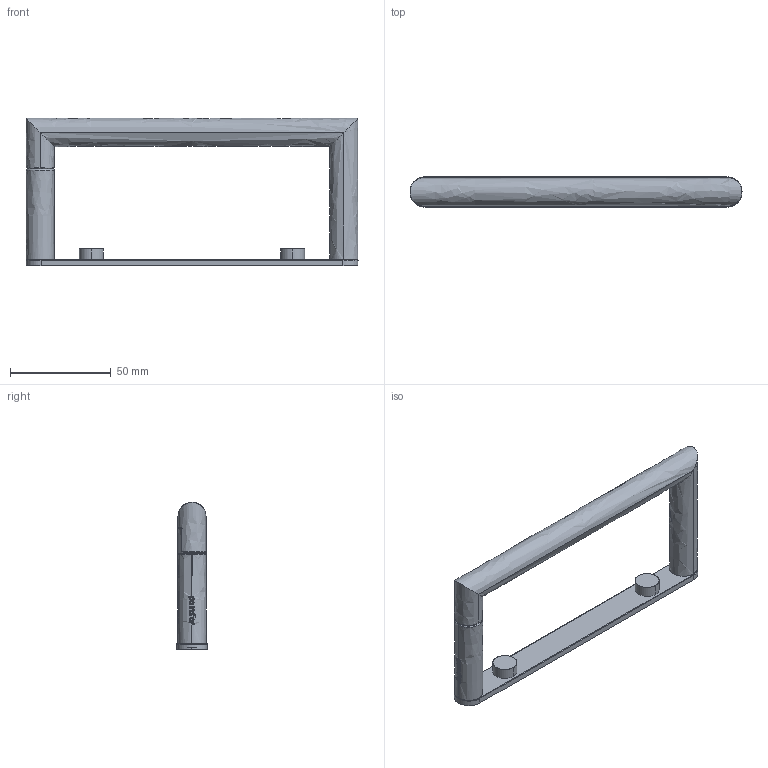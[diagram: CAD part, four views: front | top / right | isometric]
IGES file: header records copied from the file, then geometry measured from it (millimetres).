
Start section: SolidWorks IGES file using analytic representation for surfaces
Global section: file name: G:\Projects\New project\For Marketing\IGS\IGS\2015-12-11\474002002VW.IGS; native system: SolidWorks 2010; preprocessor: SolidWorks 2010; author: weijuan; date: 151210.114734; units: inch
Bounding box: 165 x 15 x 73.2 mm (x, y, z)
Surface area: 19924.7 mm2 (no closed solid volume)
Topology: 0 solids, 0 shells, 151 faces, 1898 edges, 1898 vertices
Faces by surface type: bspline 82, revolution 69
